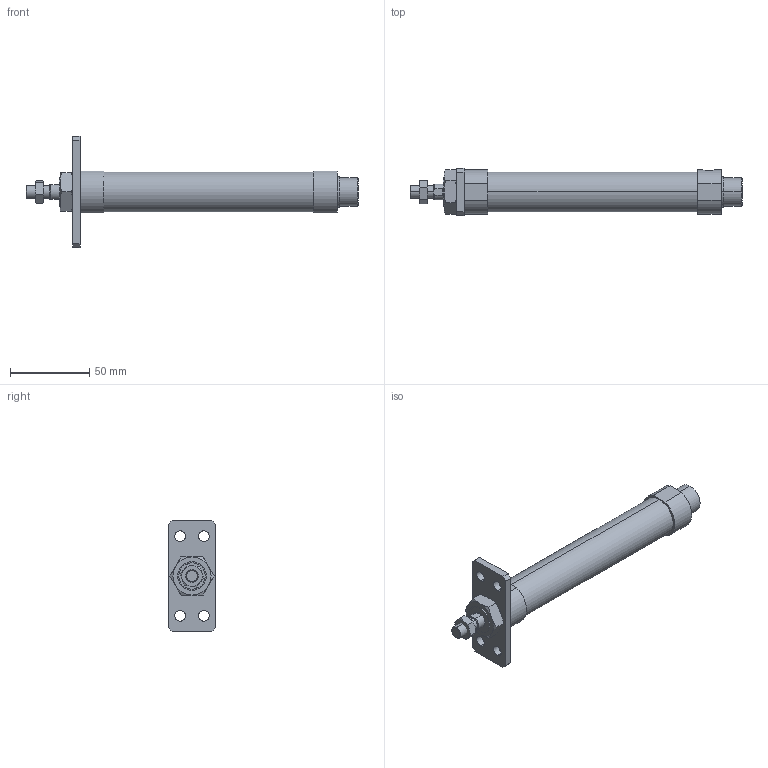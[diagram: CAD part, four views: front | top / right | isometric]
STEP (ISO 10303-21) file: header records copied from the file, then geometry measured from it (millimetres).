
FILE_DESCRIPTION (( 'STEP AP203' ), '1' );
FILE_NAME ('J#1-20-50-A.STEP', '2016-03-08T06:42:54', ( '' ), ( '' ), 'SwSTEP 2.0', 'SolidWorks 2014', '' );
FILE_SCHEMA (( 'CONFIG_CONTROL_DESIGN' ));
Length unit declared in the file: millimetre
Products named in the file (5): J#2-20-A; J#1-20-50; J#1-20-50-A
Assembly tree (4 placements, depth 2):
  J#1-20-50-A
    J#1-20-50
    (unnamed)
    (unnamed)
    J#2-20-A
Bounding box: 209 x 30 x 70 mm (x, y, z)
Volume: 100251.7 mm3; surface area: 23780.5 mm2
Topology: 4 solids, 4 shells, 109 faces, 246 edges, 154 vertices
Faces by surface type: plane 45, cylinder 34, torus 24, cone 6
Entity records: 3873 total; most frequent: CARTESIAN_POINT 906, DIRECTION 524, ORIENTED_EDGE 492, EDGE_CURVE 246, AXIS2_PLACEMENT_3D 216, VERTEX_POINT 154, EDGE_LOOP 132, FACE_OUTER_BOUND 109
